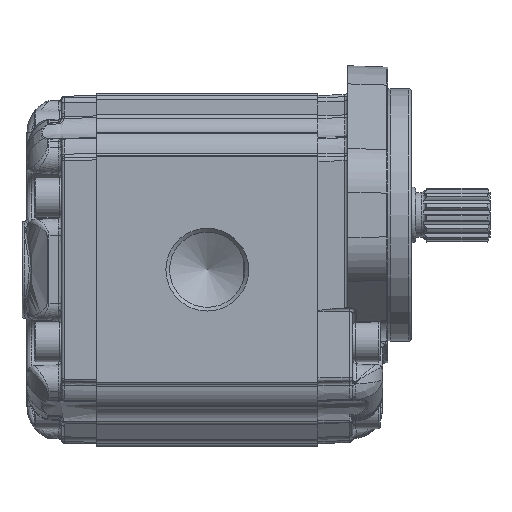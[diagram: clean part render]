
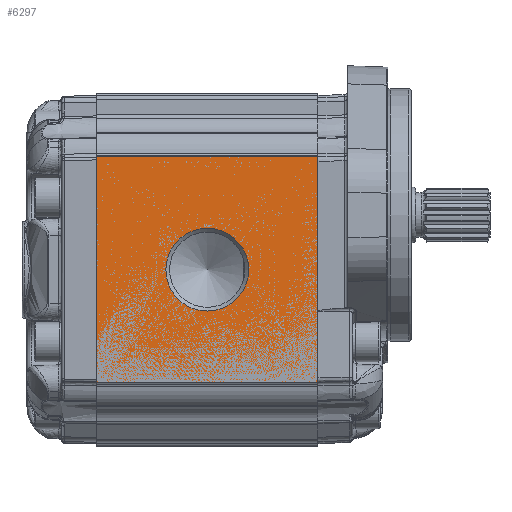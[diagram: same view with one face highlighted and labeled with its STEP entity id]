
A CAD part, left-side view. The second image highlights one B-rep face of the part: STEP entity #6297.
In plain terms, the highlighted planar face has unit normal (-1, 0, 0) as drawn and (1, 0, 0) by its records, which use the part's own axes.
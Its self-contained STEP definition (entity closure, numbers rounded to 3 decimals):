
#6297 = ADVANCED_FACE( '', ( #14169, #14170 ), #14171, .T. );
#14169 = FACE_BOUND( '', #53816, .T. );
#14170 = FACE_OUTER_BOUND( '', #53817, .T. );
#14171 = PLANE( '', #53818 );
#53816 = EDGE_LOOP( '', ( #92855 ) );
#53817 = EDGE_LOOP( '', ( #92856, #92857, #92858, #92859 ) );
#53818 = AXIS2_PLACEMENT_3D( '', #92860, #92861, #92862 );
#92855 = ORIENTED_EDGE( '', *, *, #111697, .T. );
#92856 = ORIENTED_EDGE( '', *, *, #111971, .F. );
#92857 = ORIENTED_EDGE( '', *, *, #111972, .T. );
#92858 = ORIENTED_EDGE( '', *, *, #111973, .F. );
#92859 = ORIENTED_EDGE( '', *, *, #106905, .T. );
#92860 = CARTESIAN_POINT( '', ( 57.5, -140.475, 91.388 ) );
#92861 = DIRECTION( '', ( 1., 0., 0. ) );
#92862 = DIRECTION( '', ( 0., 0., 1. ) );
#106905 = EDGE_CURVE( '', #119445, #119442, #119446, .F. );
#111697 = EDGE_CURVE( '', #126628, #126628, #126629, .F. );
#111971 = EDGE_CURVE( '', #126991, #119442, #126992, .T. );
#111972 = EDGE_CURVE( '', #126991, #126993, #126994, .F. );
#111973 = EDGE_CURVE( '', #119445, #126993, #126995, .T. );
#119442 = VERTEX_POINT( '', #143210 );
#119445 = VERTEX_POINT( '', #143213 );
#119446 = LINE( '', #143214, #143215 );
#126628 = VERTEX_POINT( '', #165686 );
#126629 = CIRCLE( '', #165687, 16.646 );
#126991 = VERTEX_POINT( '', #166818 );
#126992 = LINE( '', #166819, #166820 );
#126993 = VERTEX_POINT( '', #166821 );
#126994 = LINE( '', #166822, #166823 );
#126995 = LINE( '', #166824, #166825 );
#143210 = CARTESIAN_POINT( '', ( 57.5, 89., -45.5 ) );
#143213 = CARTESIAN_POINT( '', ( 57.5, 0., -45.5 ) );
#143214 = CARTESIAN_POINT( '', ( 57.5, -140.475, -45.5 ) );
#143215 = VECTOR( '', #177670, 1000. );
#165686 = CARTESIAN_POINT( '', ( 57.5, 44.5, 16.646 ) );
#165687 = AXIS2_PLACEMENT_3D( '', #179393, #179394, #179395 );
#166818 = CARTESIAN_POINT( '', ( 57.5, 89., 45.5 ) );
#166819 = CARTESIAN_POINT( '', ( 57.5, 89., 91.388 ) );
#166820 = VECTOR( '', #179475, 1000. );
#166821 = CARTESIAN_POINT( '', ( 57.5, 0., 45.5 ) );
#166822 = CARTESIAN_POINT( '', ( 57.5, -140.475, 45.5 ) );
#166823 = VECTOR( '', #179476, 1000. );
#166824 = CARTESIAN_POINT( '', ( 57.5, 0., -44.978 ) );
#166825 = VECTOR( '', #179477, 1000. );
#177670 = DIRECTION( '', ( 0., -1., 0. ) );
#179393 = CARTESIAN_POINT( '', ( 57.5, 44.5, 0. ) );
#179394 = DIRECTION( '', ( 1., 0., 0. ) );
#179395 = DIRECTION( '', ( 0., 0., 1. ) );
#179475 = DIRECTION( '', ( 0., 0., -1. ) );
#179476 = DIRECTION( '', ( 0., 1., 0. ) );
#179477 = DIRECTION( '', ( 0., 0., 1. ) );
